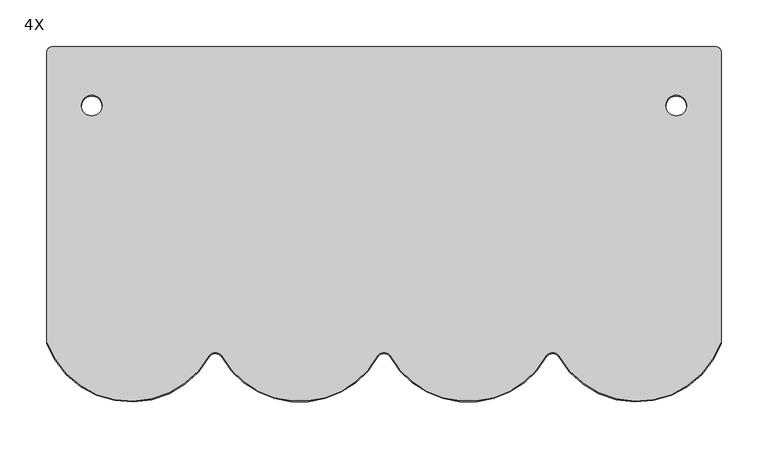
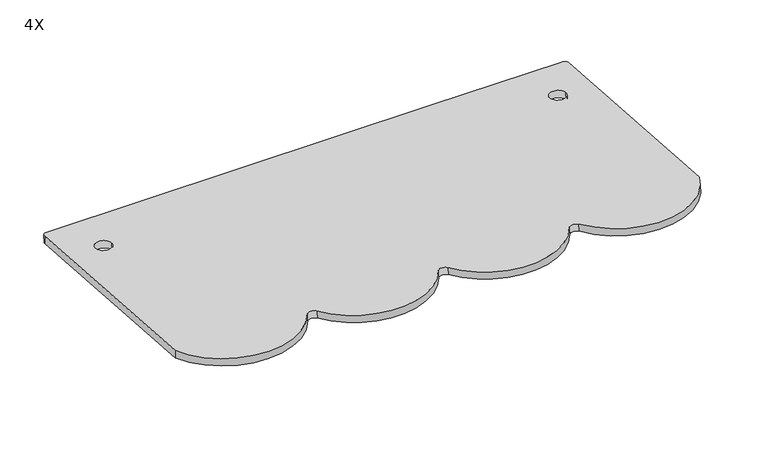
"""IFC4 building model written with IfcOpenShell, lengths in millimetres: proxy geometry, ML PhotonRoof Beaver Brick Premium : 4X."""

from ifc_helpers import new_model, si_unit, point, frame, frame_2d, origin, place, context, project, spatial, polyline, circle_curve, trimmed, segment, composite_curve, outline, extrude, source, transform, mapped, element, save


def proxy_4x_862be2c8(model_context):
    return source(origin(), model_context, "Body", "SweptSolid", [
        extrude(outline(composite_curve([segment(polyline([(180.0, 0.0), (360.0, 0.0)]), True, "CONTINUOUS"), segment(trimmed(circle_curve(frame_2d((360.0, -5.9999999)), 6.0), [point((360.0, 0.0))], [point((366.0, -5.9999999))], False, "CARTESIAN"), True, "CONTINUOUS"), segment(polyline([(366.0, -5.9999999), (366.0, -317.4065861)]), True, "CONTINUOUS"), segment(trimmed(circle_curve(frame_2d((276.0, -284.0)), 96.0), [point((366.0, -317.4065861))], [point((192.5197525, -331.4030407))], False, "CARTESIAN"), True, "CONTINUOUS"), segment(trimmed(circle_curve(frame_2d((186.0, -336.0390765)), 8.0), [point((192.5197525, -331.4030407))], [point((179.4802475, -331.4030407))], True, "CARTESIAN"), True, "CONTINUOUS"), segment(trimmed(circle_curve(frame_2d((96.0, -284.0)), 96.0), [point((179.4802475, -331.4030407))], [point((12.5197525, -331.4030407))], False, "CARTESIAN"), True, "CONTINUOUS"), segment(trimmed(circle_curve(frame_2d((6.0, -336.0390765)), 8.0), [point((12.5197525, -331.4030407))], [point((-0.5197525, -331.4030407))], True, "CARTESIAN"), True, "CONTINUOUS"), segment(trimmed(circle_curve(frame_2d((-84.0, -284.0)), 96.0), [point((-0.5197525, -331.4030407))], [point((-167.4802475, -331.4030407))], False, "CARTESIAN"), True, "CONTINUOUS"), segment(trimmed(circle_curve(frame_2d((-174.0, -336.0390765)), 8.0), [point((-167.4802475, -331.4030407))], [point((-180.5197525, -331.4030407))], True, "CARTESIAN"), True, "CONTINUOUS"), segment(trimmed(circle_curve(frame_2d((-264.0, -284.0)), 96.0), [point((-180.5197525, -331.4030407))], [point((-354.0, -317.4065861))], False, "CARTESIAN"), True, "CONTINUOUS"), segment(polyline([(-354.0, -317.4065861), (-354.0, -5.9999999)]), True, "CONTINUOUS"), segment(trimmed(circle_curve(frame_2d((-348.0, -5.9999999)), 6.0), [point((-354.0, -5.9999999))], [point((-348.0, 0.0))], False, "CARTESIAN"), True, "CONTINUOUS"), segment(polyline([(-348.0, 0.0), (180.0, 0.0)]), True, "CONTINUOUS")], self_intersect=False), holes=[composite_curve([segment(trimmed(circle_curve(frame_2d((318.0, -63.0)), 11.0), [point((329.0, -63.0))], [point((307.0, -63.0))], True, "CARTESIAN"), True, "CONTINUOUS"), segment(trimmed(circle_curve(frame_2d((318.0, -63.0)), 11.0), [point((307.0, -63.0))], [point((329.0, -63.0))], True, "CARTESIAN"), True, "CONTINUOUS")], self_intersect=False), composite_curve([segment(trimmed(circle_curve(frame_2d((-306.0, -63.0)), 11.0), [point((-317.0, -63.0))], [point((-295.0, -63.0))], True, "CARTESIAN"), True, "CONTINUOUS"), segment(trimmed(circle_curve(frame_2d((-306.0, -63.0)), 11.0), [point((-295.0, -63.0))], [point((-317.0, -63.0))], True, "CARTESIAN"), True, "CONTINUOUS")], self_intersect=False)]), frame((264.0, 61.8226874, -4.3874165), z_axis=(0.0, 0.0707897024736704, 0.997491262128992), x_axis=(1.0, 0.0, 0.0)), (0.0, 0.0, 1.0), 10.0),
        extrude(outline(polyline([(65.625, 0.0), (65.625, -23.75), (-13.759513, -23.75), (-13.759513, 0.0), (65.625, 0.0)])), frame((244.0672565, 44.8719219, -17.0261079), z_axis=(0.0, 0.0707897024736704, 0.997491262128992), x_axis=(1.0, 0.0, 0.0)), (0.0, 0.0, 1.0), 13.8069239),
    ])


if __name__ == "__main__":
    model = new_model("IFC4")
    model_context = context("Model", 3, world=origin())
    ifc_project = project(units=[si_unit("LENGTHUNIT", "METRE", prefix="MILLI")], contexts=[model_context])
    site = spatial("IfcSite", under=ifc_project)
    building = spatial("IfcBuilding", under=site)
    placement = place(None, origin())
    proxy_4x_shape = proxy_4x_862be2c8(model_context)
    element("IfcBuildingElementProxy", 1, Name="ML PhotonRoof Beaver Brick Premium : 4X", ObjectType="ML PhotonRoof Beaver Brick Premium : 4X", at=placement, inside=building, context=model_context, shape_type="MappedRepresentation", body=[
        mapped(proxy_4x_shape, transform((0.0, 0.0, 0.0), x_axis=(1.0, 0.0, 0.0), y_axis=(0.0, 1.0, 0.0), z_axis=(0.0, 0.0, 1.0))),
    ])
    save(model, "model.ifc")
